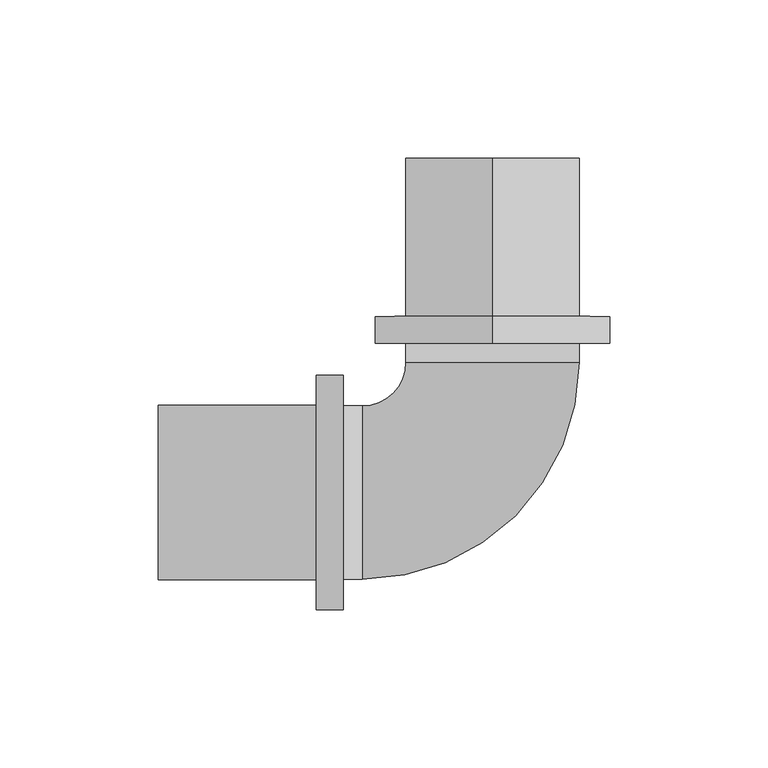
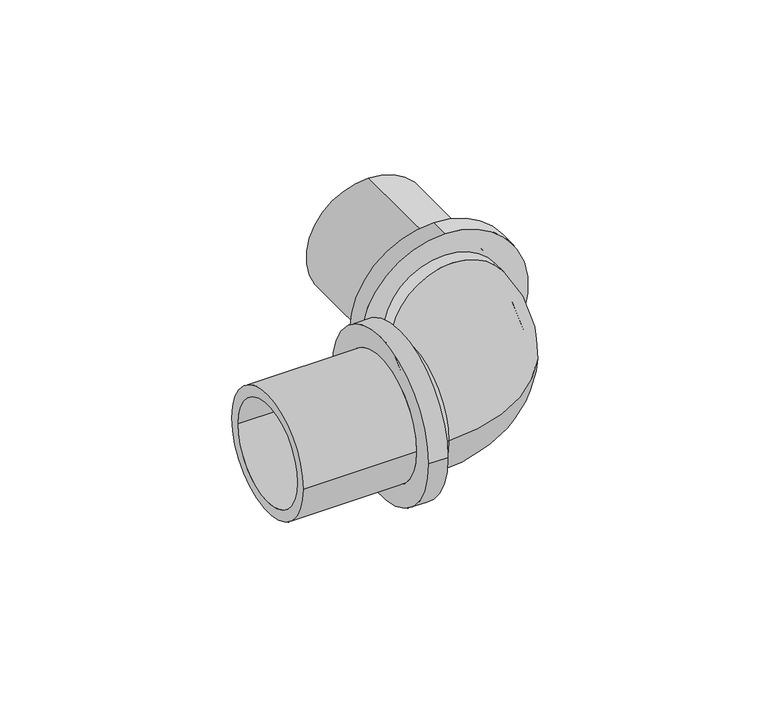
"""IFC4 building model written with IfcOpenShell, lengths in millimetres: pipe fitting geometry, RAUTITAN_Corner_RX+ stabil : RTI RX+ stabil C DE."""

from ifc_helpers import new_model, si_unit, point, frame, origin, place, context, project, spatial, polyline, circle_curve, ellipse_curve, trimmed, source, transform, mapped, element, save
from ifc_brep_helpers import plane_surface, cylinder_surface, revolved_surface, advanced_brep


def pipe_fitting_fae9ecd5(model_context):
    return source(origin(), model_context, "Body", "AdvancedBrep", [
        advanced_brep(
        [(-47.1, 27.35, 0.0), (-47.1, -27.35, 0.0), (-47.1, 22.75, 0.0), (-47.1, -22.75, 0.0), (-41.15, -22.75, 0.0), (-41.15, 0.0, -22.75), (-41.15, 22.75, 0.0), (-41.15, 0.0, 22.75), (-41.15, -27.35, 0.0), (-41.15, 27.35, 0.0), (27.35, 47.1, 0.0), (-27.35, 47.1, 0.0), (22.75, 47.1, 0.0), (-22.75, 47.1, 0.0), (-22.75, 41.15, 0.0), (0.0, 41.15, -22.75), (22.75, 41.15, 0.0), (0.0, 41.15, 22.75), (-27.35, 41.15, 0.0), (27.35, 41.15, 0.0)],
        [
            (0, 1, circle_curve(frame((-47.1, 0.0, 0.0), z_axis=(-1.0, 0.0, 0.0), x_axis=(0.0, -1.0, 0.0)), 27.35)),
            (1, 0, circle_curve(frame((-47.1, 0.0, 0.0), z_axis=(-1.0, 0.0, 0.0), x_axis=(0.0, -1.0, 0.0)), 27.35)),
            (2, 3, circle_curve(frame((-47.1, 0.0, 0.0), z_axis=(1.0, 0.0, 0.0), x_axis=(0.0, -1.0, 0.0)), 22.75)),
            (3, 2, circle_curve(frame((-47.1, 0.0, 0.0), z_axis=(1.0, 0.0, 0.0), x_axis=(0.0, -1.0, 0.0)), 22.75)),
            (3, 4),
            (4, 5, circle_curve(frame((-41.15, 0.0, 0.0), z_axis=(1.0, 0.0, 0.0), x_axis=(0.0, -1.0, 0.0)), 22.75)),
            (5, 6, circle_curve(frame((-41.15, 0.0, 0.0), z_axis=(1.0, 0.0, 0.0), x_axis=(0.0, -1.0, 0.0)), 22.75)),
            (6, 2),
            (6, 7, circle_curve(frame((-41.15, 0.0, 0.0), z_axis=(1.0, 0.0, 0.0), x_axis=(0.0, -1.0, 0.0)), 22.75)),
            (7, 4, circle_curve(frame((-41.15, 0.0, 0.0), z_axis=(1.0, 0.0, 0.0), x_axis=(0.0, -1.0, 0.0)), 22.75)),
            (1, 8),
            (8, 9, circle_curve(frame((-41.15, 0.0, 0.0), z_axis=(-1.0, 0.0, 0.0), x_axis=(0.0, -1.0, 0.0)), 27.35)),
            (9, 0),
            (9, 8, circle_curve(frame((-41.15, 0.0, 0.0), z_axis=(-1.0, 0.0, 0.0), x_axis=(0.0, -1.0, 0.0)), 27.35)),
            (10, 11, circle_curve(frame((0.0, 47.1, 0.0), z_axis=(0.0, 1.0, 0.0), x_axis=(-1.0, 0.0, 0.0)), 27.35)),
            (11, 10, circle_curve(frame((0.0, 47.1, 0.0), z_axis=(0.0, 1.0, 0.0), x_axis=(-1.0, 0.0, 0.0)), 27.35)),
            (12, 13, circle_curve(frame((0.0, 47.1, 0.0), z_axis=(0.0, -1.0, 0.0), x_axis=(-1.0, 0.0, 0.0)), 22.75)),
            (13, 12, circle_curve(frame((0.0, 47.1, 0.0), z_axis=(0.0, -1.0, 0.0), x_axis=(-1.0, 0.0, 0.0)), 22.75)),
            (13, 14),
            (14, 15, circle_curve(frame((0.0, 41.15, 0.0), z_axis=(0.0, -1.0, 0.0), x_axis=(-1.0, 0.0, 0.0)), 22.75)),
            (15, 16, circle_curve(frame((0.0, 41.15, 0.0), z_axis=(0.0, -1.0, 0.0), x_axis=(-1.0, 0.0, 0.0)), 22.75)),
            (16, 12),
            (16, 17, circle_curve(frame((0.0, 41.15, 0.0), z_axis=(0.0, -1.0, 0.0), x_axis=(-1.0, 0.0, 0.0)), 22.75)),
            (17, 14, circle_curve(frame((0.0, 41.15, 0.0), z_axis=(0.0, -1.0, 0.0), x_axis=(-1.0, 0.0, 0.0)), 22.75)),
            (11, 18),
            (18, 19, circle_curve(frame((0.0, 41.15, 0.0), z_axis=(0.0, 1.0, 0.0), x_axis=(-1.0, 0.0, 0.0)), 27.35)),
            (19, 10),
            (19, 18, circle_curve(frame((0.0, 41.15, 0.0), z_axis=(0.0, 1.0, 0.0), x_axis=(-1.0, 0.0, 0.0)), 27.35)),
            (14, 6, circle_curve(frame((-41.15, 41.15, 0.0), z_axis=(0.0, 0.0, -1.0), x_axis=(0.0, -1.0, 0.0)), 18.4)),
            (4, 16, circle_curve(frame((-41.15, 41.15, 0.0), z_axis=(0.0, 0.0, 1.0), x_axis=(0.0, -1.0, 0.0)), 63.9)),
            (18, 9, circle_curve(frame((-41.15, 41.15, 0.0), z_axis=(0.0, 0.0, -1.0), x_axis=(0.0, -1.0, 0.0)), 13.8)),
            (8, 19, circle_curve(frame((-41.15, 41.15, 0.0), z_axis=(0.0, 0.0, 1.0), x_axis=(0.0, -1.0, 0.0)), 68.5)),
        ],
        [
            plane_surface(frame((-47.1, 0.0, 0.0), z_axis=(-1.0, 0.0, 0.0), x_axis=(0.0, 0.0, 1.0))),
            revolved_surface(polyline([(-47.1, -22.75, 0.0), (-41.15, -22.75, 0.0)]), (-41.15, 0.0, 0.0), (-1.0, 0.0, 0.0)),
            cylinder_surface(frame((-41.15, 0.0, 0.0), z_axis=(1.0, 0.0, 0.0), x_axis=(0.0, -1.0, 0.0)), 27.35),
            plane_surface(frame((0.0, 47.1, 0.0), z_axis=(0.0, 1.0, 0.0), x_axis=(0.0, 0.0, 1.0))),
            revolved_surface(polyline([(-22.75, 47.1, 0.0), (-22.75, 41.15, 0.0)]), (0.0, 41.15, 0.0), (0.0, 1.0, 0.0)),
            cylinder_surface(frame((0.0, 41.15, 0.0), z_axis=(0.0, -1.0, 0.0), x_axis=(-1.0, 0.0, 0.0)), 27.35),
            revolved_surface(trimmed(ellipse_curve(frame((-41.15, 0.0, 0.0), z_axis=(1.0, 0.0, 0.0), x_axis=(0.0, 1.0, 0.0)), 22.75, 22.75), [point((-41.15, -22.75, 0.0))], [point((-41.15, 22.75, 0.0))], True, "CARTESIAN"), (-41.15, 41.15, 0.0), (0.0, 0.0, 1.0)),
            revolved_surface(trimmed(ellipse_curve(frame((-41.15, 0.0, 0.0), z_axis=(1.0, 0.0, 0.0), x_axis=(0.0, 1.0, 0.0)), 22.75, 22.75), [point((-41.15, 22.75, 0.0))], [point((-41.15, -22.75, 0.0))], True, "CARTESIAN"), (-41.15, 41.15, 0.0), (0.0, 0.0, 1.0)),
            revolved_surface(trimmed(ellipse_curve(frame((-41.15, 0.0, 0.0), z_axis=(-1.0, 0.0, 0.0), x_axis=(0.0, 1.0, 0.0)), 27.35, 27.35), [point((-41.15, -27.35, 0.0))], [point((-41.15, 27.35, 0.0))], True, "CARTESIAN"), (-41.15, 41.15, 0.0), (0.0, 0.0, 1.0)),
            revolved_surface(trimmed(ellipse_curve(frame((-41.15, 0.0, 0.0), z_axis=(-1.0, 0.0, 0.0), x_axis=(0.0, 1.0, 0.0)), 27.35, 27.35), [point((-41.15, 27.35, 0.0))], [point((-41.15, -27.35, 0.0))], True, "CARTESIAN"), (-41.15, 41.15, 0.0), (0.0, 0.0, 1.0)),
        ],
        [
            (0, [[1, 2], [3, 4]]),
            (1, [[-4, 5, 6, 7, 8]]),
            (1, [[-3, -8, 9, 10, -5]]),
            (2, [[-2, 11, 12, 13]]),
            (2, [[-1, -13, 14, -11]]),
            (3, [[15, 16], [17, 18]]),
            (4, [[-18, 19, 20, 21, 22]]),
            (4, [[-17, -22, 23, 24, -19]]),
            (5, [[-16, 25, 26, 27]]),
            (5, [[-15, -27, 28, -25]]),
            (6, [[29, -7, -6, 30, -21, -20]]),
            (7, [[-29, -24, -23, -30, -10, -9]]),
            (8, [[31, -12, 32, -26]]),
            (9, [[-31, -28, -32, -14]]),
        ],
    ),
        advanced_brep(
        [(-55.6, -37.05, 0.0), (-55.6, 37.05, 0.0), (-47.1, 37.05, 0.0), (-47.1, -37.05, 0.0), (-105.6, -27.55, 0.0), (-105.6, 27.55, 0.0), (-55.6, 27.55, 0.0), (-55.6, -27.55, 0.0), (-47.1, -22.75, 0.0), (-47.1, 22.75, 0.0), (-105.6, 22.75, 0.0), (-105.6, -22.75, 0.0)],
        [
            (0, 1, circle_curve(frame((-55.6, 0.0, 0.0), z_axis=(1.0, 0.0, 0.0), x_axis=(0.0, 1.0, 0.0)), 37.05)),
            (1, 2),
            (2, 3, circle_curve(frame((-47.1, 0.0, 0.0), z_axis=(-1.0, 0.0, 0.0), x_axis=(0.0, 1.0, 0.0)), 37.05)),
            (3, 0),
            (4, 5, circle_curve(frame((-105.6, 0.0, 0.0), z_axis=(1.0, 0.0, 0.0), x_axis=(0.0, 1.0, 0.0)), 27.55)),
            (5, 6),
            (6, 7, circle_curve(frame((-55.6, 0.0, 0.0), z_axis=(-1.0, 0.0, 0.0), x_axis=(0.0, 1.0, 0.0)), 27.55)),
            (7, 4),
            (8, 9, circle_curve(frame((-47.1, 0.0, 0.0), z_axis=(1.0, 0.0, 0.0), x_axis=(0.0, 1.0, 0.0)), 22.75)),
            (9, 10),
            (10, 11, circle_curve(frame((-105.6, 0.0, 0.0), z_axis=(-1.0, 0.0, 0.0), x_axis=(0.0, 1.0, 0.0)), 22.75)),
            (11, 8),
            (1, 0, circle_curve(frame((-55.6, 0.0, 0.0), z_axis=(1.0, 0.0, 0.0), x_axis=(0.0, -1.0, 0.0)), 37.05)),
            (3, 2, circle_curve(frame((-47.1, 0.0, 0.0), z_axis=(-1.0, 0.0, 0.0), x_axis=(0.0, -1.0, 0.0)), 37.05)),
            (6, 7, circle_curve(frame((-55.6, 0.0, 0.0), z_axis=(1.0, 0.0, 0.0), x_axis=(0.0, -1.0, 0.0)), 27.55)),
            (5, 4, circle_curve(frame((-105.6, 0.0, 0.0), z_axis=(1.0, 0.0, 0.0), x_axis=(0.0, -1.0, 0.0)), 27.55)),
            (10, 11, circle_curve(frame((-105.6, 0.0, 0.0), z_axis=(1.0, 0.0, 0.0), x_axis=(0.0, -1.0, 0.0)), 22.75)),
            (9, 8, circle_curve(frame((-47.1, 0.0, 0.0), z_axis=(1.0, 0.0, 0.0), x_axis=(0.0, -1.0, 0.0)), 22.75)),
        ],
        [
            cylinder_surface(frame((-47.1, 0.0, 0.0), z_axis=(-1.0, 0.0, 0.0), x_axis=(0.0, 1.0, 0.0)), 37.05),
            cylinder_surface(frame((-47.1, 0.0, 0.0), z_axis=(-1.0, 0.0, 0.0), x_axis=(0.0, 1.0, 0.0)), 27.55),
            revolved_surface(polyline([(-105.6, 22.75, 0.0), (-47.1, 22.75, 0.0)]), (-47.1, 0.0, 0.0), (-1.0, 0.0, 0.0)),
            cylinder_surface(frame((-47.1, 0.0, 0.0), z_axis=(-1.0, 0.0, 0.0), x_axis=(0.0, -1.0, 0.0)), 37.05),
            plane_surface(frame((-55.6, 0.0, 0.0), z_axis=(-1.0, 0.0, 0.0), x_axis=(0.0, -1.0, 0.0))),
            cylinder_surface(frame((-47.1, 0.0, 0.0), z_axis=(-1.0, 0.0, 0.0), x_axis=(0.0, -1.0, 0.0)), 27.55),
            plane_surface(frame((-105.6, 0.0, 0.0), z_axis=(-1.0, 0.0, 0.0), x_axis=(0.0, -1.0, 0.0))),
            revolved_surface(polyline([(-105.6, -22.75, 0.0), (-47.1, -22.75, 0.0)]), (-47.1, 0.0, 0.0), (-1.0, 0.0, 0.0)),
            plane_surface(frame((-47.1, 0.0, 0.0), z_axis=(1.0, 0.0, 0.0), x_axis=(0.0, -1.0, 0.0))),
        ],
        [
            (0, [[1, 2, 3, 4]]),
            (1, [[5, 6, 7, 8]]),
            (2, [[9, 10, 11, 12]]),
            (3, [[13, -4, 14, -2]]),
            (4, [[-13, -1], [15, -7]]),
            (5, [[16, -8, -15, -6]]),
            (6, [[-16, -5], [17, -11]]),
            (7, [[18, -12, -17, -10]]),
            (8, [[-14, -3], [-18, -9]]),
        ],
    ),
        advanced_brep(
        [(0.0, 55.6, 37.4749044), (0.0, 55.6, -36.6250956), (0.0, 47.1, -36.6250956), (0.0, 47.1, 37.4749044), (0.0, 105.6, 27.9749044), (0.0, 105.6, -27.1250956), (0.0, 55.6, -27.1250956), (0.0, 55.6, 27.9749044), (0.0, 47.1, 23.1749044), (0.0, 47.1, -22.3250956), (0.0, 105.6, -22.3250956), (0.0, 105.6, 23.1749044)],
        [
            (0, 1, circle_curve(frame((0.0, 55.6, 0.4249044), z_axis=(0.0, -1.0, 0.0), x_axis=(0.0, 0.0, -1.0)), 37.05)),
            (1, 2),
            (2, 3, circle_curve(frame((0.0, 47.1, 0.4249044), z_axis=(0.0, 1.0, 0.0), x_axis=(0.0, 0.0, -1.0)), 37.05)),
            (3, 0),
            (4, 5, circle_curve(frame((0.0, 105.6, 0.4249044), z_axis=(0.0, -1.0, 0.0), x_axis=(0.0, 0.0, -1.0)), 27.55)),
            (5, 6),
            (6, 7, circle_curve(frame((0.0, 55.6, 0.4249044), z_axis=(0.0, 1.0, 0.0), x_axis=(0.0, 0.0, -1.0)), 27.55)),
            (7, 4),
            (8, 9, circle_curve(frame((0.0, 47.1, 0.4249044), z_axis=(0.0, -1.0, 0.0), x_axis=(0.0, 0.0, -1.0)), 22.75)),
            (9, 10),
            (10, 11, circle_curve(frame((0.0, 105.6, 0.4249044), z_axis=(0.0, 1.0, 0.0), x_axis=(0.0, 0.0, -1.0)), 22.75)),
            (11, 8),
            (1, 0, circle_curve(frame((0.0, 55.6, 0.4249044), z_axis=(0.0, -1.0, 0.0), x_axis=(0.0, 0.0, 1.0)), 37.05)),
            (3, 2, circle_curve(frame((0.0, 47.1, 0.4249044), z_axis=(0.0, 1.0, 0.0), x_axis=(0.0, 0.0, 1.0)), 37.05)),
            (6, 7, circle_curve(frame((0.0, 55.6, 0.4249044), z_axis=(0.0, -1.0, 0.0), x_axis=(0.0, 0.0, 1.0)), 27.55)),
            (5, 4, circle_curve(frame((0.0, 105.6, 0.4249044), z_axis=(0.0, -1.0, 0.0), x_axis=(0.0, 0.0, 1.0)), 27.55)),
            (10, 11, circle_curve(frame((0.0, 105.6, 0.4249044), z_axis=(0.0, -1.0, 0.0), x_axis=(0.0, 0.0, 1.0)), 22.75)),
            (9, 8, circle_curve(frame((0.0, 47.1, 0.4249044), z_axis=(0.0, -1.0, 0.0), x_axis=(0.0, 0.0, 1.0)), 22.75)),
        ],
        [
            cylinder_surface(frame((0.0, 47.1, 0.4249044), z_axis=(0.0, 1.0, 0.0), x_axis=(0.0, 0.0, -1.0)), 37.05),
            cylinder_surface(frame((0.0, 47.1, 0.4249044), z_axis=(0.0, 1.0, 0.0), x_axis=(0.0, 0.0, -1.0)), 27.55),
            revolved_surface(polyline([(0.0, 105.6, -22.3250956), (0.0, 47.1, -22.3250956)]), (0.0, 47.1, 0.4249044), (0.0, 1.0, 0.0)),
            cylinder_surface(frame((0.0, 47.1, 0.4249044), z_axis=(0.0, 1.0, 0.0), x_axis=(0.0, 0.0, 1.0)), 37.05),
            plane_surface(frame((0.0, 55.6, 0.4249044), z_axis=(0.0, 1.0, 0.0), x_axis=(0.0, 0.0, 1.0))),
            cylinder_surface(frame((0.0, 47.1, 0.4249044), z_axis=(0.0, 1.0, 0.0), x_axis=(0.0, 0.0, 1.0)), 27.55),
            plane_surface(frame((0.0, 105.6, 0.4249044), z_axis=(0.0, 1.0, 0.0), x_axis=(0.0, 0.0, 1.0))),
            revolved_surface(polyline([(0.0, 105.6, 23.1749044), (0.0, 47.1, 23.1749044)]), (0.0, 47.1, 0.4249044), (0.0, 1.0, 0.0)),
            plane_surface(frame((0.0, 47.1, 0.4249044), z_axis=(0.0, -1.0, 0.0), x_axis=(0.0, 0.0, 1.0))),
        ],
        [
            (0, [[1, 2, 3, 4]]),
            (1, [[5, 6, 7, 8]]),
            (2, [[9, 10, 11, 12]]),
            (3, [[13, -4, 14, -2]]),
            (4, [[-13, -1], [15, -7]]),
            (5, [[16, -8, -15, -6]]),
            (6, [[-16, -5], [17, -11]]),
            (7, [[18, -12, -17, -10]]),
            (8, [[-14, -3], [-18, -9]]),
        ],
    ),
    ])


if __name__ == "__main__":
    model = new_model("IFC4")
    model_context = context("Model", 3, world=origin())
    ifc_project = project(units=[si_unit("LENGTHUNIT", "METRE", prefix="MILLI")], contexts=[model_context])
    site = spatial("IfcSite", under=ifc_project)
    building = spatial("IfcBuilding", under=site)
    placement = place(None, origin())
    pipe_fitting_shape = pipe_fitting_fae9ecd5(model_context)
    element("IfcPipeFitting", 1, ObjectType="RAUTITAN_Corner_RX+ stabil : RTI RX+ stabil C DE", at=placement, inside=building, context=model_context, shape_type="MappedRepresentation", body=[
        mapped(pipe_fitting_shape, transform((0.0, 0.0, 0.0), x_axis=(1.0, 0.0, 0.0), y_axis=(0.0, 1.0, 0.0), z_axis=(0.0, 0.0, 1.0))),
    ])
    save(model, "model.ifc")
